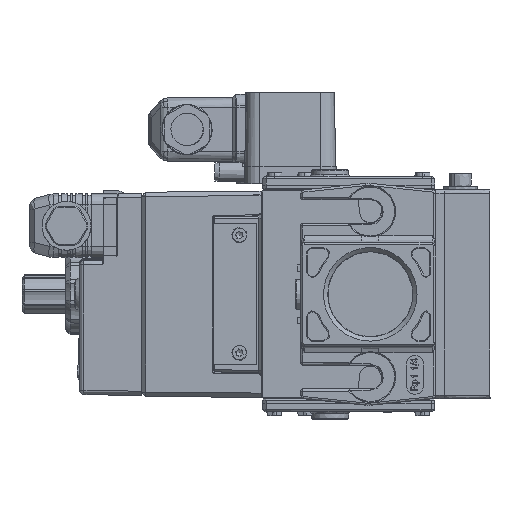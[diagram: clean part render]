
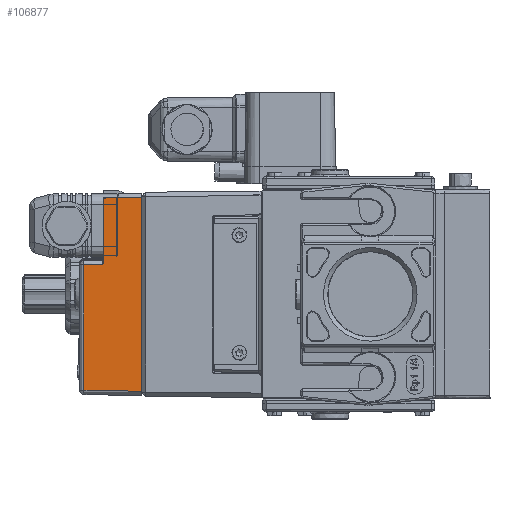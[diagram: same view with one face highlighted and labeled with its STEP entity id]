
A CAD part, left-side view. The second image highlights one B-rep face of the part: STEP entity #106877.
In plain terms, the highlighted planar face has unit normal (-1, 0.018, 0).
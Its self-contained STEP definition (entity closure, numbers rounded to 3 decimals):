
#6700 = LINE ( 'NONE', #77423, #60361 ) ;
#8158 = DIRECTION ( 'NONE',  ( -0.017, -1., 0.017 ) ) ;
#14573 = DIRECTION ( 'NONE',  ( -0.006, -0.361, 0.933 ) ) ;
#15577 = ORIENTED_EDGE ( 'NONE', *, *, #130167, .T. ) ;
#16876 = CARTESIAN_POINT ( 'NONE',  ( -322.051, 122.534, -27.32 ) ) ;
#17742 = EDGE_CURVE ( 'NONE', #98532, #17817, #142266, .T. ) ;
#17817 = VERTEX_POINT ( 'NONE', #25535 ) ;
#19136 = VERTEX_POINT ( 'NONE', #148580 ) ;
#21510 = CARTESIAN_POINT ( 'NONE',  ( -322.047, 122.795, -28.093 ) ) ;
#22971 = DIRECTION ( 'NONE',  ( -0.017, -1., 0. ) ) ;
#25535 = CARTESIAN_POINT ( 'NONE',  ( -322.358, 105., -86.313 ) ) ;
#25778 = CARTESIAN_POINT ( 'NONE',  ( -322.052, 122.5, -26.966 ) ) ;
#26014 = LINE ( 'NONE', #57077, #107300 ) ;
#33170 = ORIENTED_EDGE ( 'NONE', *, *, #112462, .T. ) ;
#36496 = CARTESIAN_POINT ( 'NONE',  ( -322.375, 103.986, 2.771 ) ) ;
#36685 = VECTOR ( 'NONE', #123217, 1000. ) ;
#36774 = EDGE_CURVE ( 'NONE', #178270, #19136, #77051, .T. ) ;
#40444 = VECTOR ( 'NONE', #112100, 1000. ) ;
#46689 = ORIENTED_EDGE ( 'NONE', *, *, #90757, .T. ) ;
#47132 = VERTEX_POINT ( 'NONE', #153541 ) ;
#49843 = LINE ( 'NONE', #121368, #36685 ) ;
#50077 = DIRECTION ( 'NONE',  ( 0., 0., -1. ) ) ;
#54846 = VERTEX_POINT ( 'NONE', #71786 ) ;
#57077 = CARTESIAN_POINT ( 'NONE',  ( -322.047, 122.793, -28.087 ) ) ;
#57841 = EDGE_CURVE ( 'NONE', #116387, #47132, #141960, .T. ) ;
#60361 = VECTOR ( 'NONE', #106561, 1000. ) ;
#60826 = VECTOR ( 'NONE', #78068, 1000. ) ;
#64564 = CARTESIAN_POINT ( 'NONE',  ( -321.894, 131.535, -85.85 ) ) ;
#71786 = CARTESIAN_POINT ( 'NONE',  ( -322.047, 122.795, -28.093 ) ) ;
#77051 = LINE ( 'NONE', #36496, #183905 ) ;
#77414 = ORIENTED_EDGE ( 'NONE', *, *, #36774, .F. ) ;
#77423 = CARTESIAN_POINT ( 'NONE',  ( -322.052, 122.5, -41.78 ) ) ;
#78068 = DIRECTION ( 'NONE',  ( 0.017, 1., -0.017 ) ) ;
#79250 = LINE ( 'NONE', #136718, #133431 ) ;
#80449 = FACE_OUTER_BOUND ( 'NONE', #172396, .T. ) ;
#84172 = CARTESIAN_POINT ( 'NONE',  ( -322.047, 122.793, -28.087 ) ) ;
#85626 = VERTEX_POINT ( 'NONE', #131116 ) ;
#90757 = EDGE_CURVE ( 'NONE', #85626, #98532, #79250, .T. ) ;
#98532 = VERTEX_POINT ( 'NONE', #64564 ) ;
#106561 = DIRECTION ( 'NONE',  ( 0., 0., -1. ) ) ;
#106877 = ADVANCED_FACE ( 'NONE', ( #80449 ), #151098, .T. ) ;
#107300 = VECTOR ( 'NONE', #14573, 1000. ) ;
#110521 = DIRECTION ( 'NONE',  ( -1., 0.017, 0. ) ) ;
#112100 = DIRECTION ( 'NONE',  ( -0.017, -1., -0.017 ) ) ;
#112347 = CARTESIAN_POINT ( 'NONE',  ( -322.047, 122.793, -28.087 ) ) ;
#112462 = EDGE_CURVE ( 'NONE', #54846, #85626, #150563, .T. ) ;
#114209 = CARTESIAN_POINT ( 'NONE',  ( -322.048, 122.718, -27.894 ) ) ;
#114879 = ORIENTED_EDGE ( 'NONE', *, *, #17742, .T. ) ;
#116387 = VERTEX_POINT ( 'NONE', #84172 ) ;
#119572 = CARTESIAN_POINT ( 'NONE',  ( -322.052, 122.5, 2.447 ) ) ;
#121368 = CARTESIAN_POINT ( 'NONE',  ( -322.358, 105., -41.78 ) ) ;
#123217 = DIRECTION ( 'NONE',  ( 0., 0., 1. ) ) ;
#124369 = ORIENTED_EDGE ( 'NONE', *, *, #57841, .F. ) ;
#130167 = EDGE_CURVE ( 'NONE', #178270, #47132, #6700, .T. ) ;
#131116 = CARTESIAN_POINT ( 'NONE',  ( -321.894, 131.535, -28.245 ) ) ;
#133431 = VECTOR ( 'NONE', #50077, 1000. ) ;
#136718 = CARTESIAN_POINT ( 'NONE',  ( -321.894, 131.535, -41.78 ) ) ;
#141960 = B_SPLINE_CURVE_WITH_KNOTS ( 'NONE', 3,
 ( #112347, #114209, #154803, #16876, #169775, #25778 ),
 .UNSPECIFIED., .F., .F.,
 ( 4, 2, 4 ),
 ( 0.5, 0.75, 1. ),
 .UNSPECIFIED. ) ;
#142266 = LINE ( 'NONE', #167678, #40444 ) ;
#148580 = CARTESIAN_POINT ( 'NONE',  ( -322.358, 105., 2.753 ) ) ;
#150563 = LINE ( 'NONE', #21510, #60826 ) ;
#151098 = PLANE ( 'NONE',  #161389 ) ;
#152243 = ORIENTED_EDGE ( 'NONE', *, *, #173089, .T. ) ;
#152965 = CARTESIAN_POINT ( 'NONE',  ( -321.894, 131.535, -86.323 ) ) ;
#153541 = CARTESIAN_POINT ( 'NONE',  ( -322.052, 122.5, -26.966 ) ) ;
#154803 = CARTESIAN_POINT ( 'NONE',  ( -322.049, 122.644, -27.701 ) ) ;
#156214 = EDGE_CURVE ( 'NONE', #54846, #116387, #26014, .T. ) ;
#161389 = AXIS2_PLACEMENT_3D ( 'NONE', #152965, #110521, #22971 ) ;
#165960 = ORIENTED_EDGE ( 'NONE', *, *, #156214, .F. ) ;
#167678 = CARTESIAN_POINT ( 'NONE',  ( -321.894, 131.535, -85.85 ) ) ;
#169775 = CARTESIAN_POINT ( 'NONE',  ( -322.053, 122.5, -27.134 ) ) ;
#172396 = EDGE_LOOP ( 'NONE', ( #15577, #124369, #165960, #33170, #46689, #114879, #152243, #77414 ) ) ;
#173089 = EDGE_CURVE ( 'NONE', #17817, #19136, #49843, .T. ) ;
#178270 = VERTEX_POINT ( 'NONE', #119572 ) ;
#183905 = VECTOR ( 'NONE', #8158, 1000. ) ;
